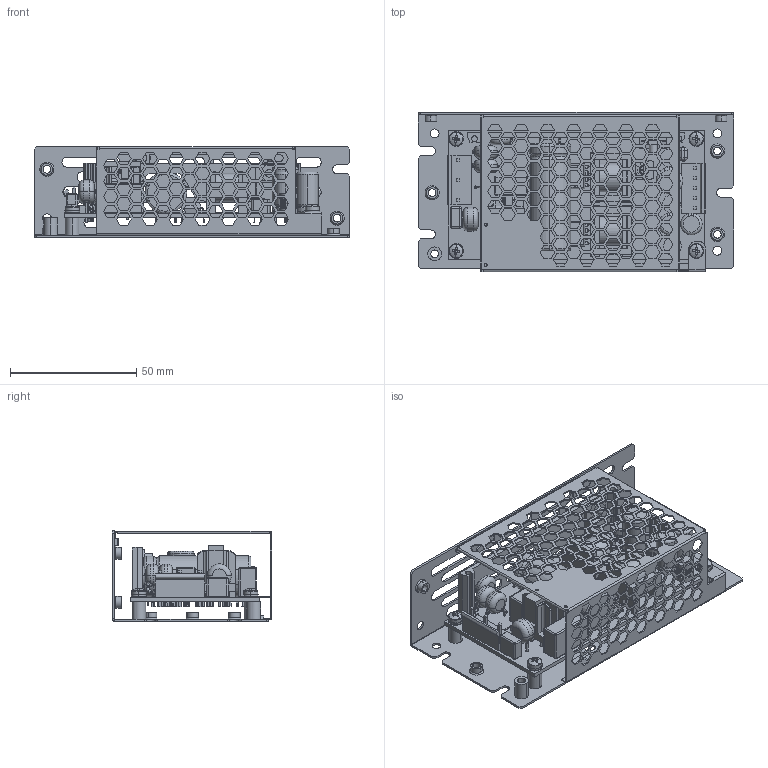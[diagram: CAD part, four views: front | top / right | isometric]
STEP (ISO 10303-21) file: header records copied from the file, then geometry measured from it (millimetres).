
FILE_DESCRIPTION (( 'STEP AP214' ), '1' );
FILE_NAME ('CUT35_A.STEP', '2017-09-06T01:51:53', ( '' ), ( '' ), 'SwSTEP 2.0', 'SolidWorks 2014', '' );
FILE_SCHEMA (( 'AUTOMOTIVE_DESIGN' ));
Length unit declared in the file: millimetre
Products named in the file (34): HEX_NUT; TO-220AB-T3_5 -1_______; CT-6EP-0R9_______; L-NSL675; C-FIL-13X7_5P10H12; C-RDER72J473K3K1C11B; B5P-VH_B4P-VH; C-ELE-8_0P3_5H15; C-FIL-18_5X8_5P15H17; JIS B 1256 Small circular 30107; YCA837-32-01; B3P5-VH; C-ELE-10_0P5H20; CUS100M COVER--2016-01-07_謂1; j4; DIP8; PCB; BP-U10R5P-2A; CA833-32-50_A-C_謂1; T1; C-ELE-18_0P7_5H40LR; SEMS SCREW M3X8 FE NI_x6; PCB ALL ASSY-20160714; XCA837-32-01; C-FIL-8.5X4.2P5.08H8; TH-9.5X6P5; JIS B 1111 Cross recessed pan head screw - M3 x 8 - Z --6N0107_JIS B 1111 Cross recessed pan head screw - M3 x 8 - Z --8N; FLAT HEAD SCREW M3X8 FE NI; CUT35_A; C-Y1-9X5P10H12_152M; JIS B 1251 No.2 30107
Assembly tree (40 placements, depth 4):
  CUT35_A
    CA833-32-50_A-C_謂1
    CUS100M COVER--2016-01-07_謂1
    SEMS SCREW M3X8 FE NI_x6  x4
      JIS B 1256 Small circular 30107
      JIS B 1251 No.2 30107
      JIS B 1111 Cross recessed pan head screw - M3 x 8 - Z --6N0107_JIS B 1111 Cross recessed pan head screw - M3 x 8 - Z --8N
    PCB ALL ASSY-20160714
      PCB
      B3P5-VH
      B5P-VH_B4P-VH
      CT-6EP-0R9_______
      C-FIL-8.5X4.2P5.08H8
      BP-U10R5P-2A
      C-FIL-18_5X8_5P15H17
      C-FIL-13X7_5P10H12
      C-Y1-9X5P10H12_152M  x3
      TH-9.5X6P5
      C-ELE-18_0P7_5H40LR
      DIP8  x2
      XCA837-32-01
        YCA837-32-01
        TO-220AB-T3_5 -1_______
        FLAT HEAD SCREW M3X8 FE NI
      L-NSL675
      C-ELE-10_0P5H20
      C-ELE-8_0P3_5H15  x2
      L-NSL675
      L-NSL675
      T1
      T1
      j4
      C-RDER72J473K3K1C11B
      HEX_NUT
Bounding box: 125 x 63.1 x 36 mm (x, y, z)
Volume: 49061.2 mm3; surface area: 69936 mm2
Topology: 51 solids, 54 shells, 3620 faces, 9506 edges, 6045 vertices
Faces by surface type: plane 2239, cylinder 822, torus 412, cone 59, sphere 44, bspline 44
Entity records: 111348 total; most frequent: CARTESIAN_POINT 19339, DIRECTION 17220, ORIENTED_EDGE 17170, EDGE_CURVE 8585, VECTOR 6192, LINE 6192, AXIS2_PLACEMENT_3D 5514, VERTEX_POINT 5483
